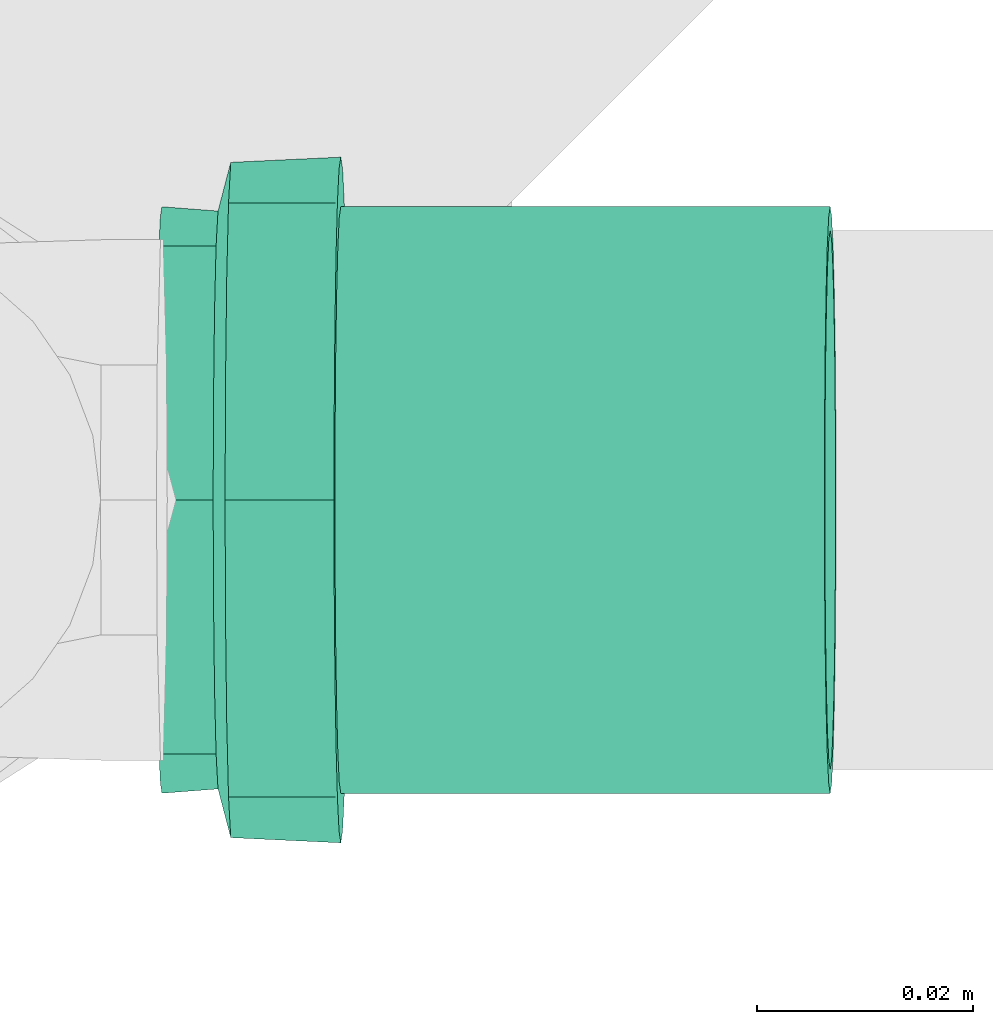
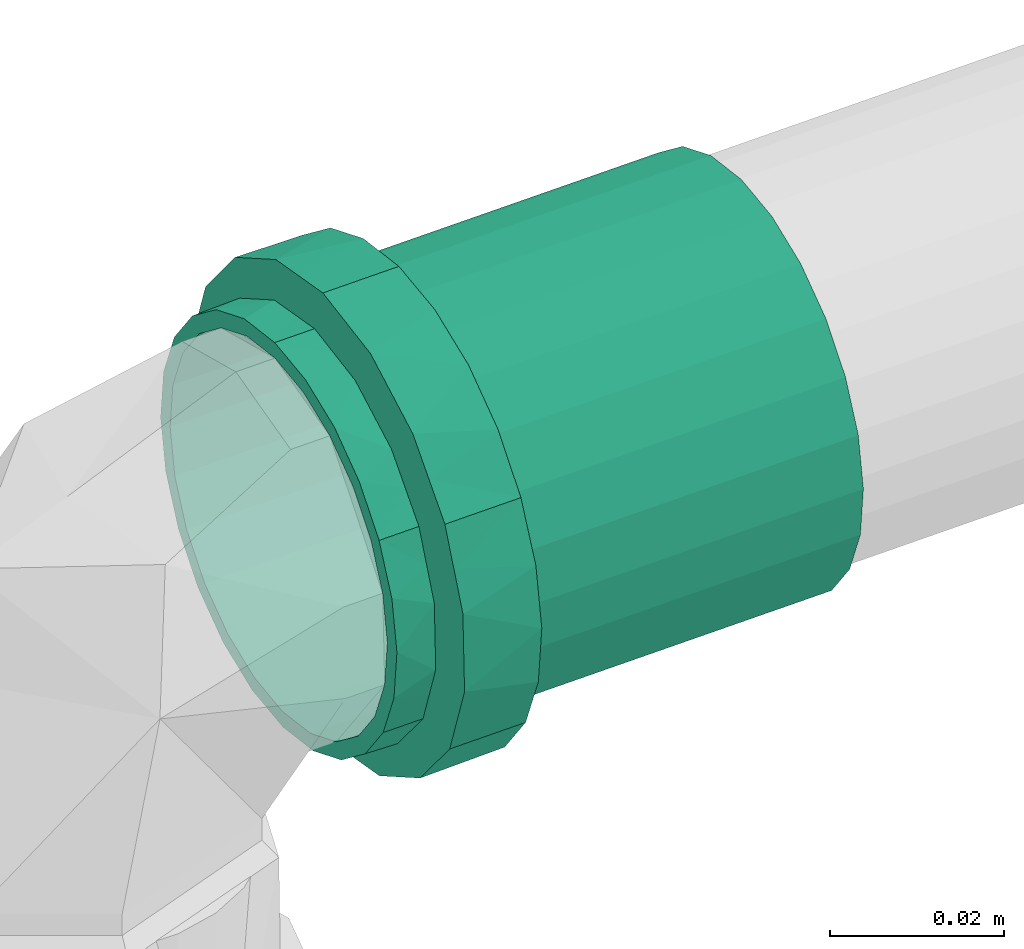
# One storey, part 68 of 589: 1 flow fitting.
"""IFC2X3 building model written with IfcOpenShell, lengths in millimetres."""

from ifc_helpers import new_model, entity, si_unit, converted_unit, derived_unit, direction, frame, origin, place, context, subcontext, project, spatial, faceted_brep, source, transform, mapped, material, type_object, type_shapes, element, save


model = new_model("IFC2X3")

# Units and contexts
model_context = context("Model", 3, precision=0.01, world=origin(), true_north=direction((6.123031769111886e-17, 1.0)))
body_context = subcontext(model_context, "Body", "Model", "MODEL_VIEW")
ifc_project = project(units=[si_unit("LENGTHUNIT", "METRE", prefix="MILLI"), si_unit("AREAUNIT", "SQUARE_METRE"), si_unit("VOLUMEUNIT", "CUBIC_METRE"), converted_unit("PLANEANGLEUNIT", "DEGREE", entity("IfcRatioMeasure", 0.017453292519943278), si_unit("PLANEANGLEUNIT", "RADIAN"), dimensions=[0, 0, 0, 0, 0, 0, 0]), si_unit("MASSUNIT", "GRAM", prefix="KILO"), derived_unit("MASSDENSITYUNIT", [(si_unit("MASSUNIT", "GRAM", prefix="KILO"), 1), (si_unit("LENGTHUNIT", "METRE"), -3)]), derived_unit("IONCONCENTRATIONUNIT", [(si_unit("MASSUNIT", "GRAM", prefix="KILO"), 1), (si_unit("LENGTHUNIT", "METRE"), -3)]), derived_unit("MOMENTOFINERTIAUNIT", [(si_unit("LENGTHUNIT", "METRE"), 4)]), si_unit("TIMEUNIT", "SECOND"), si_unit("FREQUENCYUNIT", "HERTZ"), si_unit("THERMODYNAMICTEMPERATUREUNIT", "DEGREE_CELSIUS"), derived_unit("THERMALTRANSMITTANCEUNIT", [(si_unit("MASSUNIT", "GRAM", prefix="KILO"), 1), (si_unit("THERMODYNAMICTEMPERATUREUNIT", "KELVIN"), -1), (si_unit("TIMEUNIT", "SECOND"), -3)]), derived_unit("THERMALCONDUCTANCEUNIT", [(si_unit("MASSUNIT", "GRAM", prefix="KILO"), 1), (si_unit("THERMODYNAMICTEMPERATUREUNIT", "KELVIN"), -1), (si_unit("TIMEUNIT", "SECOND"), -3), (si_unit("LENGTHUNIT", "METRE"), 1)]), derived_unit("VOLUMETRICFLOWRATEUNIT", [(si_unit("LENGTHUNIT", "METRE"), 3), (si_unit("TIMEUNIT", "SECOND"), -1)]), derived_unit("MASSFLOWRATEUNIT", [(si_unit("MASSUNIT", "GRAM", prefix="KILO"), 1), (si_unit("TIMEUNIT", "SECOND"), -1)]), derived_unit("ROTATIONALFREQUENCYUNIT", [(si_unit("TIMEUNIT", "SECOND"), -1)]), si_unit("ELECTRICCURRENTUNIT", "AMPERE"), si_unit("ELECTRICVOLTAGEUNIT", "VOLT"), si_unit("POWERUNIT", "WATT"), si_unit("FORCEUNIT", "NEWTON", prefix="KILO"), si_unit("ILLUMINANCEUNIT", "LUX"), si_unit("LUMINOUSFLUXUNIT", "LUMEN"), si_unit("LUMINOUSINTENSITYUNIT", "CANDELA"), derived_unit("USERDEFINED", [(si_unit("MASSUNIT", "GRAM", prefix="KILO"), -1), (si_unit("LENGTHUNIT", "METRE"), -2), (si_unit("TIMEUNIT", "SECOND"), 3), (si_unit("LUMINOUSFLUXUNIT", "LUMEN"), 1)]), derived_unit("USERDEFINED", [(si_unit("MASSUNIT", "GRAM", prefix="KILO"), 1), (si_unit("TIMEUNIT", "SECOND"), -3), (si_unit("LENGTHUNIT", "METRE"), 3), (si_unit("ELECTRICCURRENTUNIT", "AMPERE"), -2)]), derived_unit("SOUNDPOWERUNIT", [(si_unit("MASSUNIT", "GRAM", prefix="KILO"), 1), (si_unit("TIMEUNIT", "SECOND"), -3), (si_unit("LENGTHUNIT", "METRE"), 2)]), derived_unit("SOUNDPRESSUREUNIT", [(si_unit("MASSUNIT", "GRAM", prefix="KILO"), 1), (si_unit("LENGTHUNIT", "METRE"), -1), (si_unit("TIMEUNIT", "SECOND"), -2)]), derived_unit("LINEARVELOCITYUNIT", [(si_unit("LENGTHUNIT", "METRE"), 1), (si_unit("TIMEUNIT", "SECOND"), -1)]), si_unit("PRESSUREUNIT", "PASCAL"), derived_unit("USERDEFINED", [(si_unit("MASSUNIT", "GRAM", prefix="KILO"), 1), (si_unit("LENGTHUNIT", "METRE"), -2), (si_unit("TIMEUNIT", "SECOND"), -2)]), derived_unit("LINEARFORCEUNIT", [(si_unit("MASSUNIT", "GRAM", prefix="KILO"), 1), (si_unit("TIMEUNIT", "SECOND"), -2)]), derived_unit("PLANARFORCEUNIT", [(si_unit("MASSUNIT", "GRAM", prefix="KILO"), 1), (si_unit("LENGTHUNIT", "METRE"), -1), (si_unit("TIMEUNIT", "SECOND"), -2)]), derived_unit("SPECIFICHEATCAPACITYUNIT", [(si_unit("THERMODYNAMICTEMPERATUREUNIT", "KELVIN"), -1), (si_unit("LENGTHUNIT", "METRE"), 2), (si_unit("TIMEUNIT", "SECOND"), -2)]), derived_unit("HEATINGVALUEUNIT", [(si_unit("LENGTHUNIT", "METRE"), 2), (si_unit("TIMEUNIT", "SECOND"), -2)]), derived_unit("VAPORPERMEABILITYUNIT", [(si_unit("LENGTHUNIT", "METRE"), -1), (si_unit("TIMEUNIT", "SECOND"), 1)]), derived_unit("DYNAMICVISCOSITYUNIT", [(si_unit("MASSUNIT", "GRAM", prefix="KILO"), 1), (si_unit("TIMEUNIT", "SECOND"), -1), (si_unit("LENGTHUNIT", "METRE"), -1)]), derived_unit("THERMALEXPANSIONCOEFFICIENTUNIT", [(si_unit("THERMODYNAMICTEMPERATUREUNIT", "KELVIN"), -1)]), derived_unit("MODULUSOFELASTICITYUNIT", [(si_unit("MASSUNIT", "GRAM", prefix="KILO"), 1), (si_unit("LENGTHUNIT", "METRE"), -1), (si_unit("TIMEUNIT", "SECOND"), -2)]), derived_unit("ISOTHERMALMOISTURECAPACITYUNIT", [(si_unit("LENGTHUNIT", "METRE"), 3), (si_unit("MASSUNIT", "GRAM", prefix="KILO"), -1)]), derived_unit("MOISTUREDIFFUSIVITYUNIT", [(si_unit("TIMEUNIT", "SECOND"), -1), (si_unit("LENGTHUNIT", "METRE"), 2)])], contexts=[model_context])

# Site, building, storey
site_placement = place(None, origin())
site = spatial("IfcSite", under=ifc_project, at=site_placement, Name="Default", CompositionType="ELEMENT")
building_placement = place(site_placement, origin())
building = spatial("IfcBuilding", under=site, at=building_placement, CompositionType="ELEMENT")
storey_placement = place(building_placement, frame((0.0, 0.0, 100.0)))
storey = spatial("IfcBuildingStorey", under=building, at=storey_placement, Name="TÉRREO", CompositionType="ELEMENT", Elevation=100.0)

# Flow fitting
ifc_material = material(Name="PVC Série Normal")
pipe_fitting_type = type_object("IfcPipeFittingType", Name="PVC Esgoto_Luva Simples para Conexão_Rodrigo MEP:Standard", PredefinedType="NOTDEFINED", material=ifc_material)
shared_shape = source(origin(), body_context, "Body", "Brep", [
    faceted_brep([(16.599999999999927, 15.900000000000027, -27.53960784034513), (16.599999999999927, 22.485995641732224, -22.485995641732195), (16.599999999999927, 13.599999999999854, -23.555890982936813), (16.599999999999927, 7.039878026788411, -26.273182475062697), (16.599999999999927, 8.2304456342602, -30.71644127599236), (16.599999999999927, 19.233304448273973, -19.233304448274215), (16.599999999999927, 27.539607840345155, -15.899999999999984), (16.599999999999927, 23.55589098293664, -13.600000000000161), (16.599999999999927, 26.273182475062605, -7.03987802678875), (16.599999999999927, 30.716441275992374, -8.230445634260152), (16.599999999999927, 27.2, 0.0), (16.599999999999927, 31.8, 0.0), (16.599999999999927, 26.273182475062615, 7.0398780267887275), (16.599999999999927, 30.71644127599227, 8.23044563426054), (16.599999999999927, 23.555890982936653, 13.60000000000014), (16.599999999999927, 27.539607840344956, 15.900000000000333), (16.599999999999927, 19.233304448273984, 19.2333044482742), (16.599999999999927, 22.485995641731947, 22.48599564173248), (16.599999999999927, 13.599999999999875, 23.555890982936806), (16.599999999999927, 15.899999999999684, 27.53960784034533), (16.599999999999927, 7.039878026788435, 26.27318247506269), (16.599999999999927, 8.230445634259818, 30.716441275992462), (16.599999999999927, 0.0, 27.2), (16.599999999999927, 0.0, 31.8), (16.599999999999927, -7.039878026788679, 26.273182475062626), (16.599999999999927, -8.230445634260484, 30.716441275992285), (16.599999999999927, -13.600000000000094, 23.555890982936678), (16.599999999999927, -15.900000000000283, 27.53960784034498), (16.599999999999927, -19.23330444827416, 19.233304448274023), (16.599999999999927, -22.485995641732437, 22.48599564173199), (16.599999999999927, -23.55589098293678, 13.59999999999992), (16.599999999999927, -27.539607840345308, 15.899999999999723), (16.599999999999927, -30.71644127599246, 8.230445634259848), (16.599999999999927, -26.273182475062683, 7.039878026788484), (16.599999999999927, -31.8, 0.0), (16.599999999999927, -27.2, 0.0), (16.599999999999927, -30.71644127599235, -8.23044563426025), (16.599999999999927, -26.273182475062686, -7.03987802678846), (16.599999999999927, -27.53960784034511, -15.90000000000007), (16.599999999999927, -23.55589098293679, -13.599999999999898), (16.599999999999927, -22.485995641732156, -22.485995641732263), (16.599999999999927, -19.233304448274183, -19.233304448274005), (16.599999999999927, -15.899999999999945, -27.53960784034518), (16.599999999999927, -13.600000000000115, -23.555890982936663), (16.599999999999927, -8.230445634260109, -30.716441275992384), (16.599999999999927, -7.039878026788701, -26.273182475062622), (16.599999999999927, 0.0, -31.8), (16.599999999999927, 0.0, -27.2), (6.500000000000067, -10.708108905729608, 29.429219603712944), (6.500000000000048, -24.359073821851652, 20.44200387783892), (6.500000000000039, -27.120498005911, 15.6595386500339), (6.50000000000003, -29.881922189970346, 10.877073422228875), (6.500000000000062, -15.89769721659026, 27.540937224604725), (6.500000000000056, -20.128385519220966, 23.991470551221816), (6.50000000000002, -30.840961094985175, 5.438536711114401), (6.5000000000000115, -31.8, 0.0), (6.50000000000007, -5.518520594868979, 31.317501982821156), (6.500000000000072, 5.526376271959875, 31.316116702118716), (6.50000000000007, 0.00392783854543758, 31.316809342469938), (6.500000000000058, 20.134403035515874, 23.986420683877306), (6.500000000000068, 10.715490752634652, 29.42653259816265), (6.500000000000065, 15.904605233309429, 27.536948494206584), (6.500000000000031, 29.8846497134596, 10.869577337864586), (6.500000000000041, 27.12442527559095, 15.652735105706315), (6.5000000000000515, 24.364200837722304, 20.435892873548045), (6.5000000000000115, 31.8, 0.0), (6.499999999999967, 24.364200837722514, -20.435892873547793), (6.499999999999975, 27.12442527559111, -15.652735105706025), (6.499999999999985, 29.884649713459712, -10.869577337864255), (6.4999999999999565, 15.904605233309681, -27.53694849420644), (6.499999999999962, 20.134403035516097, -23.986420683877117), (6.499999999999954, 10.715490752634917, -29.42653259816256), (6.499999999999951, 5.526376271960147, -31.31611670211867), (6.499999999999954, -5.518520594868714, -31.317501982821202), (6.499999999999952, 0.003927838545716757, -31.316809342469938), (6.499999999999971, -20.128385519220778, -23.99147055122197), (6.499999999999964, -15.897697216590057, -27.54093722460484), (6.499999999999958, -10.70810890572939, -29.42921960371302), (6.499999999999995, -29.881922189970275, -10.877073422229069), (6.499999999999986, -27.12049800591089, -15.659538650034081), (6.499999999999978, -24.359073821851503, -20.442003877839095), (6.500000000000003, -30.840961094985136, -5.438536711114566), (6.499999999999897, -30.696173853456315, -6.259599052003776), (62.0, 13.600000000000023, -23.55589098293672), (62.0, 19.233304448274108, -19.23330444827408), (62.0, 12.499999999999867, -21.650635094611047), (62.0, 6.470476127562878, -24.14814565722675), (62.0, 7.039878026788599, -26.273182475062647), (62.0, 17.677669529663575, -17.677669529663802), (62.0, 23.55589098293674, -13.599999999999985), (62.0, 21.65063509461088, -12.50000000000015), (62.0, 24.148145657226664, -6.470476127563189), (62.0, 26.27318247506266, -7.039878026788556), (62.0, 25.0, 0.0), (62.0, 27.2, 0.0), (62.0, 24.148145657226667, 6.4704761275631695), (62.0, 26.273182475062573, 7.03987802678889), (62.0, 21.650635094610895, 12.500000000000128), (62.0, 23.555890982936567, 13.600000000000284), (62.0, 17.67766952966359, 17.67766952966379), (62.0, 19.233304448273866, 19.233304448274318), (62.0, 12.499999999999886, 21.650635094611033), (62.0, 13.59999999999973, 23.55589098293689), (62.0, 6.4704761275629, 24.14814565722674), (62.0, 7.039878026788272, 26.273182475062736), (62.0, 0.0, 25.0), (62.0, 0.0, 27.2), (62.0, -6.470476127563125, 24.148145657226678), (62.0, -7.039878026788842, 26.273182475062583), (62.0, -12.500000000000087, 21.650635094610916), (62.0, -13.600000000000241, 23.555890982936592), (62.0, -17.677669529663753, 17.677669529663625), (62.0, -19.233304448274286, 19.2333044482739), (62.0, -21.65063509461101, 12.499999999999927), (62.0, -23.555890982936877, 13.599999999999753), (62.0, -26.27318247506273, 7.039878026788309), (62.0, -24.14814565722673, 6.470476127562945), (62.0, -27.2, 0.0), (62.0, -25.0, 0.0), (62.0, -26.27318247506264, -7.0398780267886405), (62.0, -24.148145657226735, -6.470476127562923), (62.0, -23.5558909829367, -13.600000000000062), (62.0, -21.650635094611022, -12.499999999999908), (62.0, -19.233304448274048, -19.233304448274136), (62.0, -17.67766952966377, -17.677669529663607), (62.0, -13.599999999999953, -23.555890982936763), (62.0, -12.500000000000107, -21.650635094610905), (62.0, -7.039878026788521, -26.27318247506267), (62.0, -6.470476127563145, -24.148145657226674), (62.0, 0.0, -27.2), (62.0, 0.0, -25.0), (0.0, 12.499999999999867, -21.650635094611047), (0.0, 19.233304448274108, -19.23330444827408), (0.0, 13.600000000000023, -23.55589098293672), (0.0, 6.470476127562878, -24.14814565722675), (0.0, 17.677669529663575, -17.677669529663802), (0.0, 23.55589098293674, -13.599999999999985), (0.0, 21.65063509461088, -12.50000000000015), (0.0, 24.148145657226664, -6.470476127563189), (0.0, 26.27318247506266, -7.039878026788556), (0.0, 25.0, 0.0), (0.0, 27.2, 0.0), (0.0, 24.148145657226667, 6.4704761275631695), (0.0, 26.273182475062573, 7.03987802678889), (0.0, 21.650635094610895, 12.500000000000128), (0.0, 23.555890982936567, 13.600000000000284), (0.0, 17.67766952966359, 17.67766952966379), (0.0, 19.233304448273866, 19.233304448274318), (0.0, 12.499999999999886, 21.650635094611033), (0.0, 13.59999999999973, 23.55589098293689), (0.0, 6.4704761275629, 24.14814565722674), (0.0, 7.039878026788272, 26.273182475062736), (0.0, 0.0, 25.0), (0.0, 0.0, 27.2), (0.0, -6.470476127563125, 24.148145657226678), (0.0, -7.039878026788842, 26.273182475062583), (0.0, -12.500000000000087, 21.650635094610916), (0.0, -13.600000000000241, 23.555890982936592), (0.0, -17.677669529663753, 17.677669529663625), (0.0, -19.233304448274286, 19.2333044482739), (0.0, -21.65063509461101, 12.499999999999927), (0.0, -23.555890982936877, 13.599999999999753), (0.0, -26.27318247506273, 7.039878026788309), (0.0, -24.14814565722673, 6.470476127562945), (0.0, -27.2, 0.0), (0.0, -25.0, 0.0), (0.0, -26.27318247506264, -7.0398780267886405), (0.0, -24.148145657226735, -6.470476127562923), (0.0, -23.5558909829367, -13.600000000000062), (0.0, -21.650635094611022, -12.499999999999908), (0.0, -19.233304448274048, -19.233304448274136), (0.0, -17.67766952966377, -17.677669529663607), (0.0, -13.599999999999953, -23.555890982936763), (0.0, -12.500000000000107, -21.650635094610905), (0.0, -7.039878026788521, -26.27318247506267), (0.0, -6.470476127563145, -24.148145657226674), (0.0, 0.0, -27.2), (0.0, 0.0, -25.0), (0.0, 7.039878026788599, -26.273182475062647), (5.300000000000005, -26.37968999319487, 4.651830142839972), (5.299999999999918, -26.25584678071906, 5.354122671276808), (5.300000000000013, -25.559379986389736, 9.303660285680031), (5.300000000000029, -20.835434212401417, 17.48498444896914), (5.300000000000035, -17.216732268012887, 20.521006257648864), (5.300000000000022, -23.19740709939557, 13.394322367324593), (5.3000000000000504, -4.720244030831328, 26.787297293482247), (5.300000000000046, -9.15913717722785, 25.172162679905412), (5.299999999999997, -27.2, 0.0), (5.300000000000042, -13.598030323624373, 23.557028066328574), (5.300000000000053, 9.165451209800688, 25.169864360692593), (5.300000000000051, 13.603939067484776, 23.55361632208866), (5.300000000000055, 4.7269633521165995, 26.786112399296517), (5.300000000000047, 17.221879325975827, 20.516686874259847), (5.300000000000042, 20.839819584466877, 17.479757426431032), (5.3000000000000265, 25.56171296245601, 9.297248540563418), (5.299999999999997, 27.2, 0.0), (5.3000000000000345, 23.20076627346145, 13.388502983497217), (5.300000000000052, 0.003359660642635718, 26.786704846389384), (5.299999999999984, 25.56171296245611, -9.29724854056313), (5.299999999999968, 20.839819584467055, -17.47975742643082), (5.2999999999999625, 17.22187932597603, -20.516686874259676), (5.299999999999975, 23.200766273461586, -13.388502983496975), (5.299999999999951, 4.726963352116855, -26.78611239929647), (5.2999999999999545, 9.165451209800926, -25.169864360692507), (5.299999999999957, 13.603939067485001, -23.553616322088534), (5.29999999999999, -26.379689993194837, -4.651830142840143), (5.299999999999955, -9.159137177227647, -25.17216267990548), (5.299999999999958, -13.5980303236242, -23.55702806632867), (5.299999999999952, -4.720244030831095, -26.787297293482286), (5.299999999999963, -17.216732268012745, -20.52100625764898), (5.299999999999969, -20.83543421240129, -17.484984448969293), (5.299999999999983, -25.559379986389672, -9.303660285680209), (5.299999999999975, -23.197407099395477, -13.394322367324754), (5.299999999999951, 0.003359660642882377, -26.78670484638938), (39.0, -25.0, 0.0), (39.0, 25.0, 0.0)], [[[0, 1, 2]], [[0, 2, 3]], [[3, 4, 0]], [[2, 1, 5]], [[6, 5, 1]], [[7, 5, 6]], [[8, 7, 6]], [[8, 6, 9]], [[8, 9, 10]], [[10, 9, 11]], [[12, 10, 11]], [[12, 11, 13]], [[14, 12, 13]], [[14, 13, 15]], [[16, 14, 15]], [[15, 17, 16]], [[17, 18, 16]], [[17, 19, 18]], [[18, 19, 20]], [[21, 20, 19]], [[20, 21, 22]], [[22, 21, 23]], [[22, 23, 24]], [[24, 23, 25]], [[24, 25, 26]], [[27, 26, 25]], [[27, 28, 26]], [[28, 27, 29]], [[30, 28, 29]], [[31, 30, 29]], [[32, 30, 31]], [[33, 30, 32]], [[33, 32, 34]], [[35, 33, 34]], [[36, 35, 34]], [[36, 37, 35]], [[37, 36, 38]], [[39, 37, 38]], [[39, 38, 40]], [[39, 40, 41]], [[40, 42, 41]], [[41, 42, 43]], [[43, 42, 44]], [[44, 45, 43]], [[46, 45, 44]], [[4, 47, 46]], [[46, 47, 45]], [[4, 3, 47]], [[48, 27, 25]], [[31, 29, 49]], [[31, 49, 50, 51]], [[52, 53, 27]], [[32, 51, 54]], [[54, 55, 34]], [[54, 34, 32]], [[25, 56, 48]], [[49, 29, 53]], [[23, 57, 58, 56]], [[59, 19, 17]], [[27, 53, 29]], [[48, 52, 27]], [[31, 51, 32]], [[57, 23, 21]], [[60, 19, 61]], [[15, 62, 63, 64]], [[19, 60, 21]], [[15, 13, 62]], [[17, 64, 59]], [[57, 21, 60]], [[23, 56, 25]], [[15, 64, 17]], [[13, 65, 62]], [[13, 11, 65]], [[59, 61, 19]], [[65, 11, 9]], [[6, 1, 66]], [[6, 66, 67, 68]], [[69, 70, 0]], [[68, 65, 9]], [[71, 69, 0]], [[71, 0, 4]], [[4, 72, 71]], [[66, 1, 70]], [[46, 73, 74, 72]], [[75, 76, 42]], [[0, 70, 1]], [[75, 42, 40]], [[6, 68, 9]], [[73, 46, 44]], [[77, 42, 76]], [[38, 78, 79, 80]], [[42, 77, 44]], [[38, 36, 78]], [[40, 80, 75]], [[73, 44, 77]], [[46, 72, 4]], [[38, 80, 40]], [[36, 81, 82, 78]], [[55, 81, 34]], [[34, 81, 36]], [[83, 84, 85]], [[83, 85, 86]], [[86, 87, 83]], [[85, 84, 88]], [[89, 88, 84]], [[88, 89, 90]], [[90, 89, 91]], [[92, 91, 89]], [[92, 93, 91]], [[93, 92, 94]], [[95, 93, 94]], [[94, 96, 95]], [[95, 96, 97]], [[98, 97, 96]], [[97, 98, 99]], [[99, 98, 100]], [[101, 99, 100]], [[100, 102, 101]], [[101, 102, 103]], [[104, 103, 102]], [[103, 104, 105]], [[105, 104, 106]], [[105, 106, 107]], [[107, 106, 108]], [[107, 108, 109]], [[110, 109, 108]], [[110, 111, 109]], [[111, 110, 112]], [[112, 113, 111]], [[114, 113, 112]], [[113, 114, 115]], [[115, 116, 113]], [[117, 116, 115]], [[117, 118, 116]], [[119, 118, 117]], [[119, 120, 118]], [[120, 119, 121]], [[121, 122, 120]], [[122, 121, 123]], [[122, 123, 124]], [[123, 125, 124]], [[124, 125, 126]], [[126, 125, 127]], [[127, 128, 126]], [[129, 128, 127]], [[87, 130, 129]], [[129, 130, 128]], [[87, 86, 130]], [[131, 132, 133]], [[134, 131, 133]], [[135, 132, 131]], [[132, 135, 136]], [[137, 136, 135]], [[138, 136, 137]], [[136, 138, 139]], [[138, 140, 139]], [[141, 139, 140]], [[141, 140, 142]], [[142, 143, 141]], [[144, 143, 142]], [[143, 144, 145]], [[146, 145, 144]], [[147, 145, 146]], [[147, 146, 148]], [[148, 149, 147]], [[150, 149, 148]], [[149, 150, 151]], [[152, 151, 150]], [[153, 151, 152]], [[154, 153, 152]], [[155, 153, 154]], [[156, 155, 154]], [[155, 156, 157]], [[156, 158, 157]], [[159, 157, 158]], [[158, 160, 159]], [[159, 160, 161]], [[162, 161, 160]], [[160, 163, 162]], [[162, 163, 164]], [[163, 165, 164]], [[164, 165, 166]], [[165, 167, 166]], [[168, 166, 167]], [[167, 169, 168]], [[170, 168, 169]], [[171, 170, 169]], [[171, 172, 170]], [[173, 172, 171]], [[174, 172, 173]], [[173, 175, 174]], [[174, 175, 176]], [[175, 177, 176]], [[177, 134, 178]], [[176, 177, 178]], [[133, 178, 134]], [[162, 179, 180, 181]], [[159, 182, 183]], [[182, 161, 181, 184]], [[185, 155, 186]], [[161, 162, 181]], [[187, 179, 164]], [[183, 188, 157]], [[183, 157, 159]], [[161, 182, 159]], [[189, 190, 149]], [[189, 149, 151]], [[157, 188, 186]], [[157, 186, 155]], [[153, 155, 185]], [[164, 179, 162]], [[151, 191, 189]], [[147, 192, 193]], [[143, 194, 195]], [[194, 145, 193, 196]], [[143, 195, 141]], [[10, 12, 96, 94]], [[149, 192, 147]], [[153, 185, 197, 191]], [[153, 191, 151]], [[145, 147, 193]], [[190, 192, 149]], [[145, 194, 143]], [[139, 195, 198]], [[132, 199, 200]], [[199, 136, 198, 201]], [[202, 178, 203]], [[136, 139, 198]], [[139, 141, 195]], [[92, 8, 10, 94]], [[133, 203, 178]], [[200, 204, 133]], [[136, 199, 132]], [[205, 164, 166]], [[206, 207, 172]], [[133, 204, 203]], [[206, 172, 174]], [[176, 178, 202]], [[200, 133, 132]], [[174, 208, 206]], [[170, 209, 210]], [[166, 211, 205]], [[211, 168, 210, 212]], [[168, 211, 166]], [[172, 209, 170]], [[176, 202, 213, 208]], [[176, 208, 174]], [[168, 170, 210]], [[207, 209, 172]], [[205, 187, 164]], [[116, 118, 214, 165, 163]], [[156, 109, 111, 158]], [[111, 113, 160, 158]], [[113, 116, 163, 160]], [[107, 109, 156, 154]], [[154, 152, 105, 107]], [[103, 105, 152, 150]], [[103, 150, 148, 101]], [[142, 95, 97, 144]], [[97, 99, 146, 144]], [[99, 101, 148, 146]], [[93, 95, 142, 140, 215]], [[215, 140, 138, 91, 93]], [[135, 131, 85, 88]], [[90, 91, 138, 137]], [[90, 137, 135, 88]], [[86, 85, 131, 134]], [[134, 177, 130, 86]], [[128, 130, 177, 175]], [[128, 175, 173, 126]], [[167, 120, 122, 169]], [[122, 124, 171, 169]], [[124, 126, 173, 171]], [[118, 120, 167, 165, 214]], [[211, 78, 82, 81, 55, 187, 205]], [[79, 78, 211, 212, 210, 80]], [[75, 80, 210, 209, 207, 76]], [[207, 206, 208, 73, 77, 76]], [[213, 202, 72, 74, 73, 208]], [[203, 204, 69, 71, 72, 202]], [[198, 195, 65, 68]], [[199, 201, 198, 68, 67, 66]], [[204, 200, 199, 66, 70, 69]], [[195, 194, 62, 65]], [[197, 185, 56, 58, 57, 191]], [[63, 62, 194, 196, 193, 64]], [[57, 60, 61, 190, 189, 191]], [[193, 192, 190, 61, 59, 64]], [[48, 56, 185, 186, 188, 52]], [[187, 55, 54, 51, 181, 180, 179]], [[182, 184, 181, 51, 50, 49]], [[188, 183, 182, 49, 53, 52]], [[30, 33, 115, 114]], [[117, 115, 33, 35]], [[26, 28, 112, 110]], [[114, 112, 28, 30]], [[24, 26, 110, 108]], [[108, 106, 22, 24]], [[18, 20, 104, 102]], [[100, 16, 18, 102]], [[12, 14, 98, 96]], [[100, 98, 14, 16]], [[104, 20, 22, 106]], [[89, 7, 8, 92]], [[83, 87, 3, 2]], [[7, 89, 84, 5]], [[83, 2, 5, 84]], [[87, 129, 47, 3]], [[43, 45, 127, 125]], [[123, 41, 43, 125]], [[37, 39, 121, 119]], [[123, 121, 39, 41]], [[35, 37, 119, 117]], [[127, 45, 47, 129]]]),
])
type_shapes(pipe_fitting_type, [shared_shape])
flow_fitting_placement = place(storey_placement, frame((-7556.31313326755, -5330.070962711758, 2995.4470976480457), z_axis=(0.0, 1.0, 0.0), x_axis=(0.999800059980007, 0.0, 0.019996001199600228)))
element("IfcFlowFitting", 1, at=flow_fitting_placement, inside=storey, type_object=pipe_fitting_type, material=ifc_material, Name="PVC Esgoto_Luva Simples para Conexão_Rodrigo MEP:Standard", ObjectType="PVC Esgoto_Luva Simples para Conexão_Rodrigo MEP:Standard", context=body_context, shape_type="MappedRepresentation", body=[
    mapped(shared_shape, transform((0.0, 0.0, 0.0), scale=1.0)),
])

save(model, "model.ifc")
